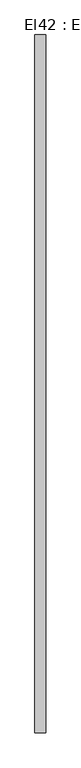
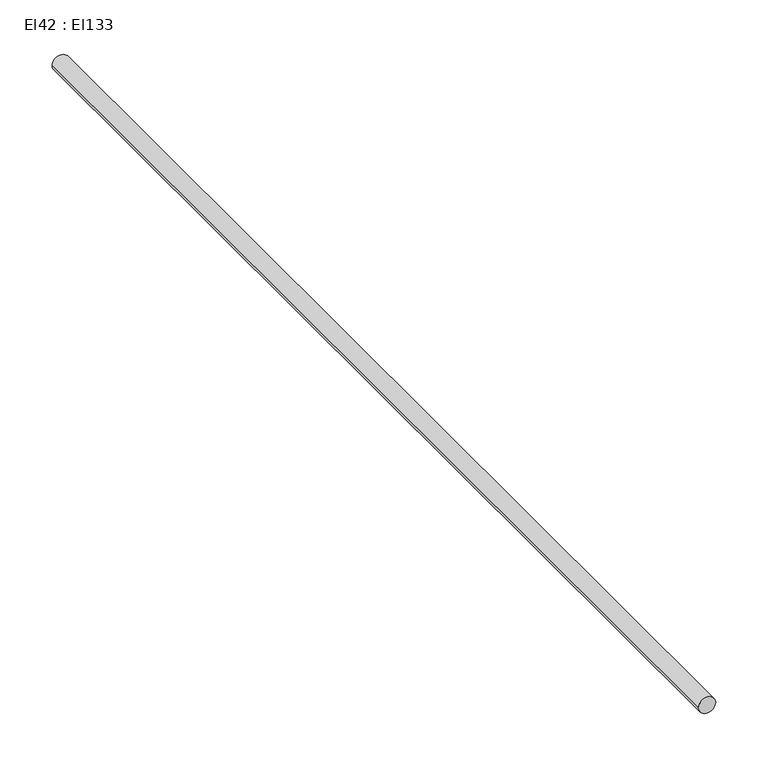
"""IFC4 building model written with IfcOpenShell, lengths in millimetres: cable carrier segment geometry, El42 : El133."""

import ifcopenshell
import ifcopenshell.guid

model = None  # the IFC model being written
_history = None  # IfcOwnerHistory: only IFC2X3 demands one
_inside = {}  # id of a spatial element -> (the spatial element, [elements in it])
_under = {}  # id of a project, library or spatial element -> (it, [spatial elements below it])
_declared = {}  # id of a project -> (the project, [libraries it declares])
_typed = {}  # id of a type object -> (the type object, [elements of that type])
_made_of = {}  # id of a material, layer set ... -> (it, [elements and type objects made of it])


def new_model(schema):
    """Start an empty IFC model of exactly this schema.

    Asked for "IFC4X3", IfcOpenShell would pick the latest addendum, in which some entities
    have other attributes; the version numbers below select the first issue.
    IFC2X3 requires an IfcOwnerHistory on every rooted entity: one is made here for all.
    """
    global model, _history
    if schema == "IFC4X3":
        model = ifcopenshell.file(schema_version=(4, 3, 0, 0))
    else:
        model = ifcopenshell.file(schema=schema)
    _inside.clear()
    _under.clear()
    _declared.clear()
    _typed.clear()
    _made_of.clear()
    _history = None
    if model.schema == "IFC2X3":
        org = make("IfcOrganization", Name="unknown")
        user = make(
            "IfcPersonAndOrganization",
            ThePerson=make("IfcPerson", FamilyName="unknown"),
            TheOrganization=org,
        )
        app = make(
            "IfcApplication",
            ApplicationDeveloper=org,
            Version="unknown",
            ApplicationFullName="unknown",
            ApplicationIdentifier="unknown",
        )
        _history = make(
            "IfcOwnerHistory",
            OwningUser=user,
            OwningApplication=app,
            ChangeAction="ADDED",
            CreationDate=0,
        )
    return model


def make(cls, **values):
    """One entity of the class cls with the attributes given. An attribute that is None is left unset."""
    return model.create_entity(
        cls, **{name: value for name, value in values.items() if value is not None}
    )


def rooted(cls, **values):
    """An entity with a GlobalId (a new one), such as an element, a storey or a relation."""
    return make(cls, GlobalId=ifcopenshell.guid.new(), OwnerHistory=_history, **values)


def si_unit(unit_type, name, prefix=None):
    """IfcSIUnit, for example si_unit("LENGTHUNIT", "METRE", prefix="MILLI")."""
    return make("IfcSIUnit", UnitType=unit_type, Prefix=prefix, Name=name)


def assignment(units):
    """IfcUnitAssignment: the units of a project."""
    return None if units is None else make("IfcUnitAssignment", Units=units)


def point(xyz):
    """IfcCartesianPoint."""
    return None if xyz is None else make("IfcCartesianPoint", Coordinates=xyz)


def direction(xyz):
    """IfcDirection."""
    return None if xyz is None else make("IfcDirection", DirectionRatios=xyz)


def frame(location, z_axis=None, x_axis=None):
    """IfcAxis2Placement3D, a coordinate frame: its origin and axes. An axis left out is left unset."""
    return make(
        "IfcAxis2Placement3D",
        Location=point(location),
        Axis=direction(z_axis),
        RefDirection=direction(x_axis),
    )


def frame_2d(location, x_axis=None):
    """IfcAxis2Placement2D, a coordinate frame in the plane: its origin and x axis."""
    return make(
        "IfcAxis2Placement2D", Location=point(location), RefDirection=direction(x_axis)
    )


def origin():
    """The frame at (0, 0, 0) with its axes left unset."""
    return frame((0.0, 0.0, 0.0))


def place(relative_to, where):
    """IfcLocalPlacement: puts the frame where relative to a parent placement (None: the world)."""
    return make(
        "IfcLocalPlacement", PlacementRelTo=relative_to, RelativePlacement=where
    )


def context(
    kind, dimensions, precision=None, world=None, true_north=None, identifier=None
):
    """IfcGeometricRepresentationContext, for example the 3D "Model" context."""
    return make(
        "IfcGeometricRepresentationContext",
        ContextIdentifier=identifier,
        ContextType=kind,
        CoordinateSpaceDimension=dimensions,
        Precision=precision,
        WorldCoordinateSystem=world,
        TrueNorth=true_north,
    )


def project(units=None, contexts=None):
    """IfcProject with its units and contexts."""
    return rooted(
        "IfcProject",
        Name="project",
        RepresentationContexts=contexts,
        UnitsInContext=assignment(units),
    )


def spatial(cls, under=None, at=None, **own):
    """A site, building, storey or space (cls), placed at a placement, below another one or the project."""
    s = rooted(cls, ObjectPlacement=at, **own)
    if under is not None:
        _under.setdefault(under.id(), (under, []))[1].append(s)
    return s


def circle_curve(where, radius):
    """IfcCircle in the frame where."""
    return make("IfcCircle", Position=where, Radius=radius)


def trimmed(basis, trim1, trim2, sense, master):
    """IfcTrimmedCurve: the piece of a basis curve between two trims."""
    return make(
        "IfcTrimmedCurve",
        BasisCurve=basis,
        Trim1=trim1,
        Trim2=trim2,
        SenseAgreement=sense,
        MasterRepresentation=master,
    )


def segment(curve, same_sense, transition):
    """IfcCompositeCurveSegment."""
    return make(
        "IfcCompositeCurveSegment",
        Transition=transition,
        SameSense=same_sense,
        ParentCurve=curve,
    )


def composite_curve(segments, self_intersect=None):
    """IfcCompositeCurve: segments joined end to end."""
    return make("IfcCompositeCurve", Segments=segments, SelfIntersect=self_intersect)


def outline(outer, holes=None, kind="AREA"):
    """IfcArbitraryClosedProfileDef: a profile drawn as a closed curve; with holes, ...WithVoids."""
    if holes is None:
        return make("IfcArbitraryClosedProfileDef", ProfileType=kind, OuterCurve=outer)
    return make(
        "IfcArbitraryProfileDefWithVoids",
        ProfileType=kind,
        OuterCurve=outer,
        InnerCurves=holes,
    )


def extrude(swept, where, along, depth):
    """IfcExtrudedAreaSolid: the profile swept, set in the frame where, extruded along a direction by depth."""
    return make(
        "IfcExtrudedAreaSolid",
        SweptArea=swept,
        Position=where,
        ExtrudedDirection=direction(along),
        Depth=depth,
    )


def shape(context_of_items, identifier, shape_type, items):
    """IfcShapeRepresentation: the items that make up one representation, for example the "Body"."""
    return make(
        "IfcShapeRepresentation",
        ContextOfItems=context_of_items,
        RepresentationIdentifier=identifier,
        RepresentationType=shape_type,
        Items=items,
    )


def source(mapping_origin, context_of_items, identifier, shape_type, items):
    """IfcRepresentationMap: a shape defined once, which mapped items show again and again."""
    return make(
        "IfcRepresentationMap",
        MappingOrigin=mapping_origin,
        MappedRepresentation=shape(context_of_items, identifier, shape_type, items),
    )


def transform(
    local_origin,
    x_axis=None,
    y_axis=None,
    z_axis=None,
    scale=None,
    scale2=None,
    scale3=None,
    uniform=True,
):
    """IfcCartesianTransformationOperator3D, or its non-uniform kind. x_axis, y_axis, z_axis: its Axis1, 2, 3."""
    if uniform:
        return make(
            "IfcCartesianTransformationOperator3D",
            Axis1=direction(x_axis),
            Axis2=direction(y_axis),
            LocalOrigin=point(local_origin),
            Scale=scale,
            Axis3=direction(z_axis),
        )
    return make(
        "IfcCartesianTransformationOperator3DnonUniform",
        Axis1=direction(x_axis),
        Axis2=direction(y_axis),
        LocalOrigin=point(local_origin),
        Scale=scale,
        Axis3=direction(z_axis),
        Scale2=scale2,
        Scale3=scale3,
    )


def mapped(mapping_source, mapping_target):
    """IfcMappedItem: shows the shape of a source again, moved by a transform."""
    return make(
        "IfcMappedItem", MappingSource=mapping_source, MappingTarget=mapping_target
    )


def made_of(thing, what):
    """Note that an element or type object is made of a material, layer set ...; save() writes the relation."""
    if what is not None:
        _made_of.setdefault(what.id(), (what, []))[1].append(thing)
    return thing


def element(
    cls,
    number,
    at=None,
    inside=None,
    cuts=None,
    type_object=None,
    material=None,
    context=None,
    identifier="Body",
    shape_type=None,
    held_by="IfcProductDefinitionShape",
    body=None,
    shapes=None,
    **own,
):
    """One element of the class cls, such as IfcWall. Its Tag is "e" and its number.

    at: its placement. inside: the storey or other place that contains it. cuts: it is an
    opening in that element (IfcRelVoidsElement). A single representation is given by context,
    identifier, shape_type and body (its items); several are given by shapes. held_by: the class
    of the entity that holds the representations. save() writes the other relations.
    """
    e = rooted(cls, Tag="e%d" % number, ObjectPlacement=at, **own)
    if body is not None:
        shapes = [shape(context, identifier, shape_type, body)]
    if shapes is not None:
        e.Representation = make(held_by, Representations=shapes)
    if inside is not None:
        _inside.setdefault(inside.id(), (inside, []))[1].append(e)
    if cuts is not None:
        rooted(
            "IfcRelVoidsElement", RelatingBuildingElement=cuts, RelatedOpeningElement=e
        )
    if type_object is not None:
        _typed.setdefault(type_object.id(), (type_object, []))[1].append(e)
    return made_of(e, material)


def aggregate(whole, parts):
    """IfcRelAggregates: a whole, such as a stair, and the parts it consists of."""
    return rooted("IfcRelAggregates", RelatingObject=whole, RelatedObjects=parts)


def save(model, path):
    """Write the relations noted so far, then the file.

    IfcRelAggregates (storeys below a building ...), IfcRelContainedInSpatialStructure (elements
    in a storey), IfcRelDefinesByType, IfcRelAssociatesMaterial and IfcRelDeclares: one each for
    every whole, place, type object, material and project.
    """
    for whole, parts in _under.values():
        aggregate(whole, parts)
    for where, things in _inside.values():
        rooted(
            "IfcRelContainedInSpatialStructure",
            RelatedElements=things,
            RelatingStructure=where,
        )
    for kind, things in _typed.values():
        rooted("IfcRelDefinesByType", RelatedObjects=things, RelatingType=kind)
    for what, things in _made_of.values():
        rooted("IfcRelAssociatesMaterial", RelatedObjects=things, RelatingMaterial=what)
    for by, libraries in _declared.values():
        rooted("IfcRelDeclares", RelatingContext=by, RelatedDefinitions=libraries)
    model.write(path)


def el42_el133_466f9d78(model_context):
    return source(origin(), model_context, "Body", "SweptSolid", [
        extrude(outline(composite_curve([segment(trimmed(circle_curve(frame_2d((1800.0, 25144.4746511)), 9.5), [point((1800.0, 25134.9746511))], [point((1800.0, 25153.9746511))], False, "CARTESIAN"), True, "CONTINUOUS"), segment(trimmed(circle_curve(frame_2d((1800.0, 25144.4746511)), 9.5), [point((1800.0, 25153.9746511))], [point((1800.0, 25134.9746511))], False, "CARTESIAN"), True, "CONTINUOUS")], self_intersect=False)), frame((0.0, 1955.6831745, 0.0), z_axis=(0.0, 1.0, 0.0), x_axis=(0.0, 0.0, 1.0)), (0.0, 0.0, 1.0), 1241.86),
    ])


if __name__ == "__main__":
    model = new_model("IFC4")
    model_context = context("Model", 3, world=origin())
    ifc_project = project(units=[si_unit("LENGTHUNIT", "METRE", prefix="MILLI")], contexts=[model_context])
    site = spatial("IfcSite", under=ifc_project)
    building = spatial("IfcBuilding", under=site)
    placement = place(None, origin())
    el42_el133_shape = el42_el133_466f9d78(model_context)
    element("IfcCableCarrierSegment", 1, ObjectType="El42 : El133", at=placement, inside=building, context=model_context, shape_type="MappedRepresentation", body=[
        mapped(el42_el133_shape, transform((0.0, 0.0, 0.0), x_axis=(1.0, 0.0, 0.0), y_axis=(0.0, 1.0, 0.0), z_axis=(0.0, 0.0, 1.0))),
    ])
    save(model, "model.ifc")
